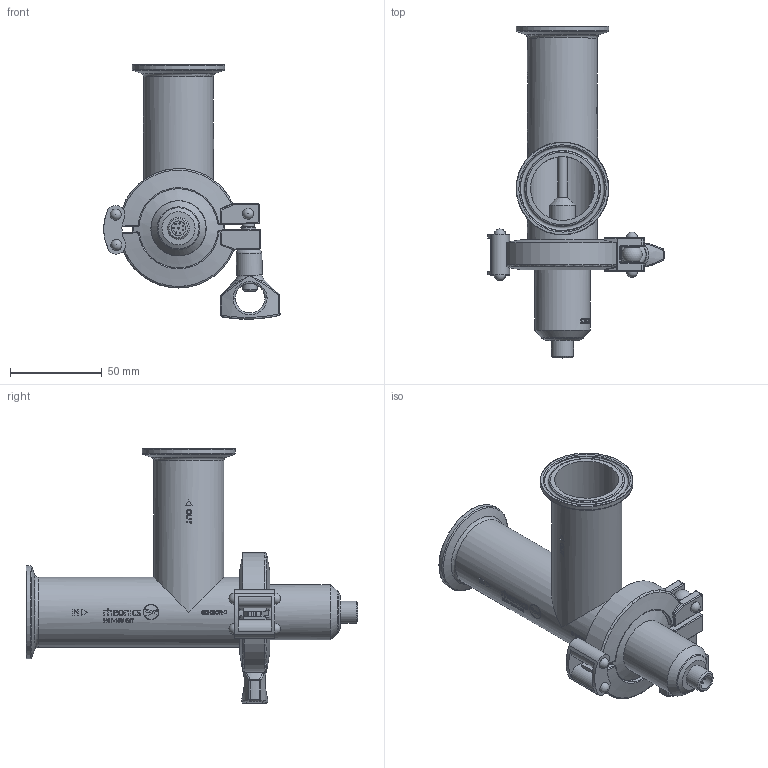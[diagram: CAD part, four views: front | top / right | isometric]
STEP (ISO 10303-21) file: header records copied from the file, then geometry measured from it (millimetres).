
FILE_DESCRIPTION(/* description */ ('Unknown'),/* implementation_level */ '2;1');
FILE_NAME(/* name */ 'SRV-HS-X3-15T_FET-15T-15T',/* time_stamp */ '2024-08-09T15:54:09-05:00',/* author */ ('Unknown'),/* organization */ ('Unknown'),/* preprocessor_version */ 'ST-DEVELOPER v16.7',/* originating_system */ 'Solid Edge',/* authorisation */ 'Unknown');
FILE_SCHEMA (('AUTOMOTIVE_DESIGN {1 0 10303 214 3 1 1}'));
Length unit declared in the file: millimetre
Products named in the file (5): SRV-HS-X3-15T_FET-15T-15T; SRV-HS-X3-15T; TC-15T-Seal; TC-15T-Clamp; FET-15T-15T
Assembly tree (4 placements, depth 2):
  SRV-HS-X3-15T_FET-15T-15T
    SRV-HS-X3-15T
    TC-15T-Seal
    TC-15T-Clamp
    FET-15T-15T
Bounding box: 96.03 x 180.56 x 138.4 mm (x, y, z)
Volume: 122459.7 mm3; surface area: 80673.1 mm2
Topology: 4 solids, 4 shells, 1150 faces, 2872 edges, 1822 vertices
Faces by surface type: bspline 396, plane 371, cylinder 257, torus 65, cone 36, sphere 25
Full cylindrical faces by diameter (mm): 0.8 x8, 5.019 x1, 6 x8, 6.8 x1, 8 x4, 12 x1, 13.9 x1, 14 x1, 16 x1, 30 x1, 34.8 x2, 38.1 x2, 38.2 x1, 50.5 x5
Entity records: 72379 total; most frequent: CARTESIAN_POINT 42404, ORIENTED_EDGE 5382, DIRECTION 4006, EDGE_CURVE 2691, VERTEX_POINT 1789, AXIS2_PLACEMENT_3D 1471, EDGE_LOOP 1402, FACE_BOUND 1402
